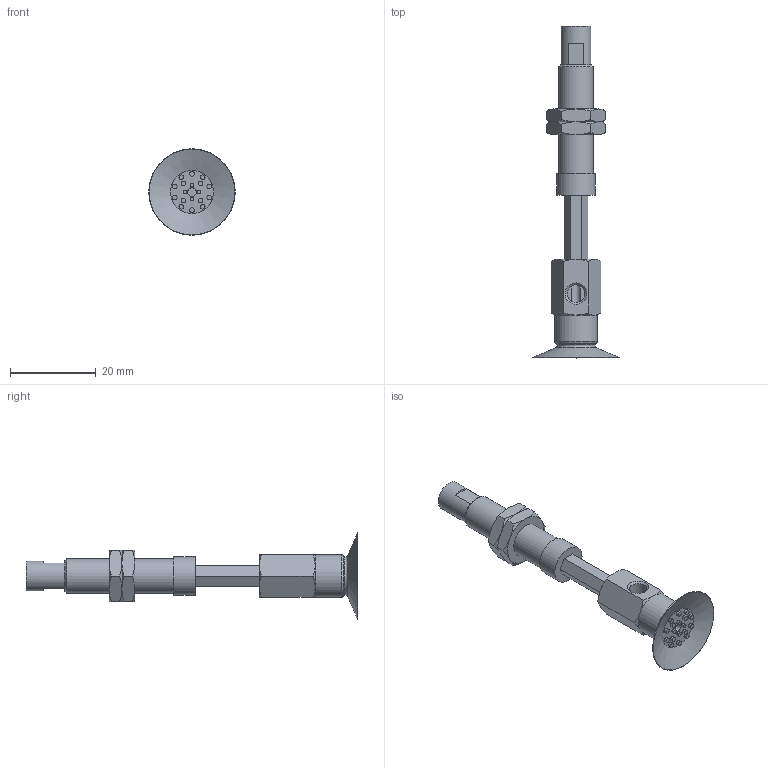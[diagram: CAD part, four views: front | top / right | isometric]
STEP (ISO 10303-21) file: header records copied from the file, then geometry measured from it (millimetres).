
FILE_DESCRIPTION(('STEP AP203'),'1');
FILE_NAME('.stp','2025-03-13T03:25:23',(' '),(' '),'Spatial InterOp 3D',' ',' ');
FILE_SCHEMA(('CONFIG_CONTROL_DESIGN'));
Length unit declared in the file: millimetre
Products named in the file (6): BNABPAYH-20A-15-※; NAPATH-20A-15--M; NAPATH-20A-15--F; Nut-10A-S; CONNECTOR-20A-15-PA; BPAG-20A-※
Assembly tree (6 placements, depth 2):
  BNABPAYH-20A-15-※
    NAPATH-20A-15--M
    NAPATH-20A-15--F
    Nut-10A-S  x2
    CONNECTOR-20A-15-PA
    BPAG-20A-※
Bounding box: 20.19 x 77.5 x 20.19 mm (x, y, z)
Volume: 4258.3 mm3; surface area: 5426.4 mm2
Topology: 6 solids, 6 shells, 175 faces, 355 edges, 219 vertices
Faces by surface type: plane 81, cone 51, cylinder 33, torus 10
Full cylindrical faces by diameter (mm): 0.9 x4, 1.1 x14, 2 x2, 4 x2, 4.134 x2, 5 x1, 6 x2, 7 x1, 7.188 x2, 8 x1, 9 x1, 10 x1
Entity records: 4164 total; most frequent: CARTESIAN_POINT 935, DIRECTION 624, ORIENTED_EDGE 490, AXIS2_PLACEMENT_3D 274, EDGE_CURVE 245, EDGE_LOOP 242, FACE_OUTER_BOUND 194, VERTEX_POINT 183
